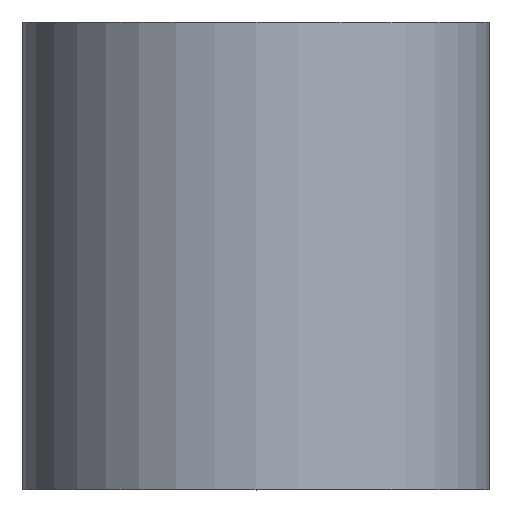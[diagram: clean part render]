
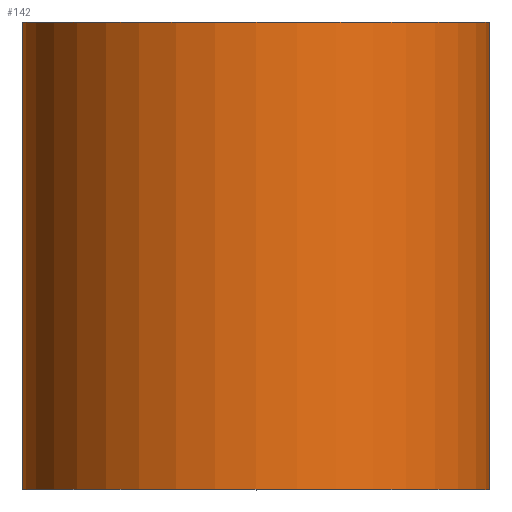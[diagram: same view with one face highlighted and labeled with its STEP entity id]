
A CAD part, top view. The second image highlights one B-rep face of the part: STEP entity #142.
In plain terms, the highlighted cylindrical face has radius 4 mm (diameter 8 mm), a partial arc.
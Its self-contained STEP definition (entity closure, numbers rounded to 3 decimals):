
#2 = CIRCLE ( 'NONE', #223, 4. ) ;
#3 = DIRECTION ( 'NONE',  ( 0., 1., 0. ) ) ;
#7 = CARTESIAN_POINT ( 'NONE',  ( -4., 0., 0. ) ) ;
#15 = DIRECTION ( 'NONE',  ( -1., 0., 0. ) ) ;
#48 = VERTEX_POINT ( 'NONE', #243 ) ;
#54 = ORIENTED_EDGE ( 'NONE', *, *, #153, .T. ) ;
#61 = LINE ( 'NONE', #7, #183 ) ;
#67 = ORIENTED_EDGE ( 'NONE', *, *, #280, .F. ) ;
#71 = DIRECTION ( 'NONE',  ( -1., 0., 0. ) ) ;
#83 = VERTEX_POINT ( 'NONE', #145 ) ;
#112 = CARTESIAN_POINT ( 'NONE',  ( -4., 8., 0. ) ) ;
#115 = FACE_OUTER_BOUND ( 'NONE', #174, .T. ) ;
#128 = DIRECTION ( 'NONE',  ( 0., 1., 0. ) ) ;
#134 = CARTESIAN_POINT ( 'NONE',  ( 4., 0., 0. ) ) ;
#136 = CARTESIAN_POINT ( 'NONE',  ( 4., 0., 0. ) ) ;
#142 = ADVANCED_FACE ( 'NONE', ( #115 ), #209, .T. ) ;
#145 = CARTESIAN_POINT ( 'NONE',  ( -4., 0., 0. ) ) ;
#148 = DIRECTION ( 'NONE',  ( -1., 0., 0. ) ) ;
#153 = EDGE_CURVE ( 'NONE', #264, #48, #201, .T. ) ;
#156 = AXIS2_PLACEMENT_3D ( 'NONE', #207, #3, #71 ) ;
#164 = ORIENTED_EDGE ( 'NONE', *, *, #197, .F. ) ;
#174 = EDGE_LOOP ( 'NONE', ( #296, #54, #67, #164 ) ) ;
#175 = CIRCLE ( 'NONE', #156, 4. ) ;
#181 = DIRECTION ( 'NONE',  ( 0., 1., 0. ) ) ;
#183 = VECTOR ( 'NONE', #283, 1000. ) ;
#196 = DIRECTION ( 'NONE',  ( 0., 1., 0. ) ) ;
#197 = EDGE_CURVE ( 'NONE', #83, #241, #61, .T. ) ;
#201 = LINE ( 'NONE', #134, #295 ) ;
#206 = EDGE_CURVE ( 'NONE', #83, #264, #175, .T. ) ;
#207 = CARTESIAN_POINT ( 'NONE',  ( 0., 0., 0. ) ) ;
#209 = CYLINDRICAL_SURFACE ( 'NONE', #274, 4. ) ;
#223 = AXIS2_PLACEMENT_3D ( 'NONE', #272, #128, #148 ) ;
#241 = VERTEX_POINT ( 'NONE', #112 ) ;
#243 = CARTESIAN_POINT ( 'NONE',  ( 4., 8., 0. ) ) ;
#264 = VERTEX_POINT ( 'NONE', #136 ) ;
#272 = CARTESIAN_POINT ( 'NONE',  ( 0., 8., 0. ) ) ;
#274 = AXIS2_PLACEMENT_3D ( 'NONE', #291, #196, #15 ) ;
#280 = EDGE_CURVE ( 'NONE', #241, #48, #2, .T. ) ;
#283 = DIRECTION ( 'NONE',  ( 0., 1., 0. ) ) ;
#291 = CARTESIAN_POINT ( 'NONE',  ( 0., 0., 0. ) ) ;
#295 = VECTOR ( 'NONE', #181, 1000. ) ;
#296 = ORIENTED_EDGE ( 'NONE', *, *, #206, .T. ) ;
